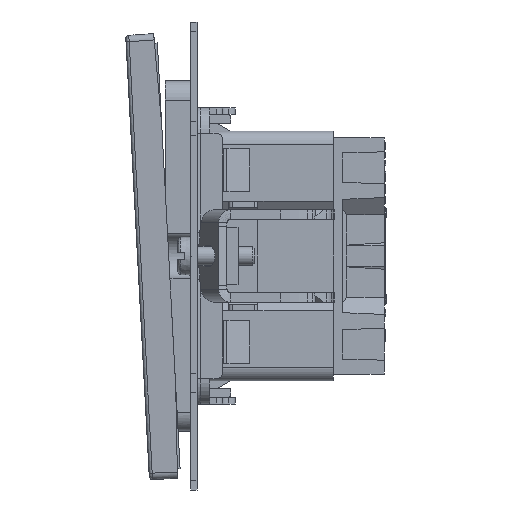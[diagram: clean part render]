
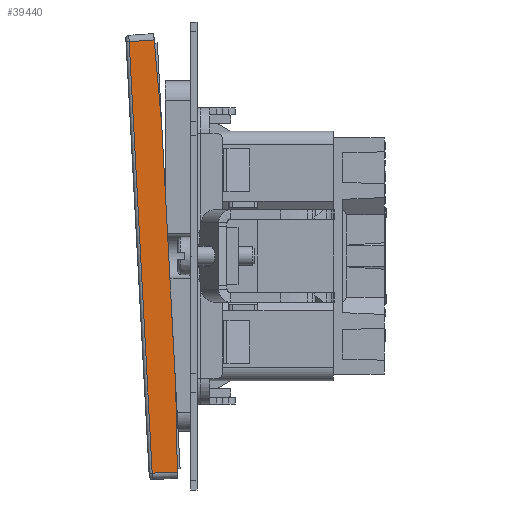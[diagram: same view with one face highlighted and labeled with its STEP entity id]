
A CAD part, left-side view. The second image highlights one B-rep face of the part: STEP entity #39440.
In plain terms, the highlighted planar face has unit normal (-1, 0.017, -0.001).
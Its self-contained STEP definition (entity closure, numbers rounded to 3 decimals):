
#323 = CARTESIAN_POINT ( 'NONE',  ( -0.096, 56.877, 86.057 ) ) ;
#546 = ORIENTED_EDGE ( 'NONE', *, *, #59147, .T. ) ;
#2722 = EDGE_CURVE ( 'NONE', #20970, #56594, #20144, .T. ) ;
#3156 = LINE ( 'NONE', #62744, #53136 ) ;
#4591 = CARTESIAN_POINT ( 'NONE',  ( -0.087, 57.375, 86.013 ) ) ;
#5541 = CARTESIAN_POINT ( 'NONE',  ( -0.019, 57.6, 16.997 ) ) ;
#5809 = ORIENTED_EDGE ( 'NONE', *, *, #2722, .T. ) ;
#6161 = VERTEX_POINT ( 'NONE', #41687 ) ;
#6822 = ORIENTED_EDGE ( 'NONE', *, *, #47997, .T. ) ;
#9753 = CARTESIAN_POINT ( 'NONE',  ( -0.088, 53.658, 17.139 ) ) ;
#11827 = DIRECTION ( 'NONE',  ( -0.001, 0.018, 1. ) ) ;
#12200 = DIRECTION ( 'NONE',  ( 0., 0.053, 0.999 ) ) ;
#12551 = ORIENTED_EDGE ( 'NONE', *, *, #46357, .T. ) ;
#14097 = AXIS2_PLACEMENT_3D ( 'NONE', #323, #25264, #59622 ) ;
#14807 = VECTOR ( 'NONE', #59340, 1000. ) ;
#15275 = CARTESIAN_POINT ( 'NONE',  ( -0.075, 54.396, 17.112 ) ) ;
#15709 = CARTESIAN_POINT ( 'NONE',  ( -0.13, 54.934, 86.093 ) ) ;
#16209 = PLANE ( 'NONE',  #14097 ) ;
#20144 = LINE ( 'NONE', #15275, #38669 ) ;
#20970 = VERTEX_POINT ( 'NONE', #5541 ) ;
#21821 = ORIENTED_EDGE ( 'NONE', *, *, #23291, .T. ) ;
#23291 = EDGE_CURVE ( 'NONE', #57488, #6161, #42030, .T. ) ;
#24295 = VECTOR ( 'NONE', #11827, 1000. ) ;
#25264 = DIRECTION ( 'NONE',  ( -1., 0.017, -0.001 ) ) ;
#25729 = CARTESIAN_POINT ( 'NONE',  ( -0.019, 61.221, 84.747 ) ) ;
#27841 = CARTESIAN_POINT ( 'NONE',  ( -0.019, 57.547, 16.007 ) ) ;
#28417 = DIRECTION ( 'NONE',  ( 0.017, 0.997, -0.071 ) ) ;
#31930 = LINE ( 'NONE', #15709, #24295 ) ;
#35047 = DIRECTION ( 'NONE',  ( -0.017, -0.999, 0.036 ) ) ;
#35399 = VERTEX_POINT ( 'NONE', #25729 ) ;
#35646 = FACE_OUTER_BOUND ( 'NONE', #38042, .T. ) ;
#38042 = EDGE_LOOP ( 'NONE', ( #546, #12551, #6822, #5809, #45510, #21821 ) ) ;
#38220 = DIRECTION ( 'NONE',  ( 0., -0.053, -0.999 ) ) ;
#38311 = CARTESIAN_POINT ( 'NONE',  ( -0.088, 57.287, 85.026 ) ) ;
#38428 = CARTESIAN_POINT ( 'NONE',  ( -0.096, 56.877, 86.057 ) ) ;
#38669 = VECTOR ( 'NONE', #35047, 1000. ) ;
#39440 = ADVANCED_FACE ( 'NONE', ( #35646 ), #16209, .T. ) ;
#40133 = VERTEX_POINT ( 'NONE', #38311 ) ;
#41349 = CARTESIAN_POINT ( 'NONE',  ( -0.096, 53.905, 30.463 ) ) ;
#41687 = CARTESIAN_POINT ( 'NONE',  ( -0.096, 56.112, 71.751 ) ) ;
#42030 = LINE ( 'NONE', #38428, #43505 ) ;
#43505 = VECTOR ( 'NONE', #12200, 1000. ) ;
#45510 = ORIENTED_EDGE ( 'NONE', *, *, #48427, .T. ) ;
#45959 = VECTOR ( 'NONE', #38220, 1000. ) ;
#46357 = EDGE_CURVE ( 'NONE', #40133, #35399, #3156, .T. ) ;
#47997 = EDGE_CURVE ( 'NONE', #35399, #20970, #57975, .T. ) ;
#48391 = LINE ( 'NONE', #4591, #14807 ) ;
#48427 = EDGE_CURVE ( 'NONE', #56594, #57488, #31930, .T. ) ;
#53136 = VECTOR ( 'NONE', #28417, 1000. ) ;
#56594 = VERTEX_POINT ( 'NONE', #9753 ) ;
#57488 = VERTEX_POINT ( 'NONE', #41349 ) ;
#57975 = LINE ( 'NONE', #27841, #45959 ) ;
#59147 = EDGE_CURVE ( 'NONE', #6161, #40133, #48391, .T. ) ;
#59340 = DIRECTION ( 'NONE',  ( 0.001, 0.088, 0.996 ) ) ;
#59622 = DIRECTION ( 'NONE',  ( 0.017, 0.998, -0.053 ) ) ;
#62744 = CARTESIAN_POINT ( 'NONE',  ( -0.096, 56.806, 85.06 ) ) ;
